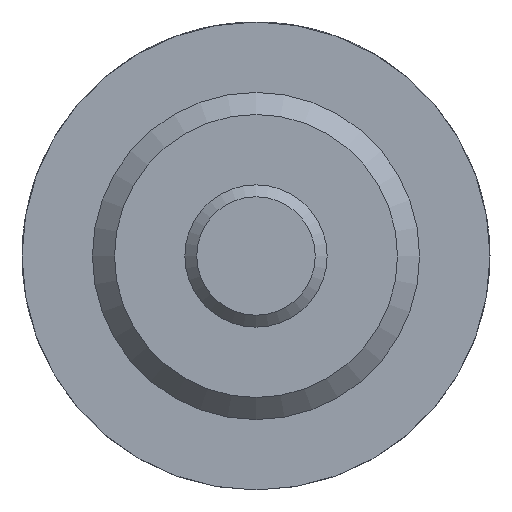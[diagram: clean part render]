
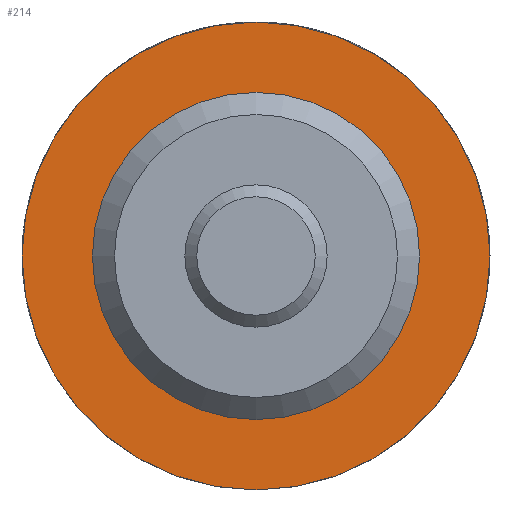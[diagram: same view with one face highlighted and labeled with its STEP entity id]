
A CAD part, left-side view. The second image highlights one B-rep face of the part: STEP entity #214.
In plain terms, the highlighted planar face has unit normal (-1, 0, 0).
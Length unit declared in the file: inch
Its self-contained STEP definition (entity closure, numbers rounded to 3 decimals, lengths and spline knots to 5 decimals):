
#214 = ADVANCED_FACE( '', ( #439, #440 ), #441, .F. );
#439 = FACE_OUTER_BOUND( '', #666, .T. );
#440 = FACE_BOUND( '', #667, .T. );
#441 = PLANE( '', #668 );
#666 = EDGE_LOOP( '', ( #1043 ) );
#667 = EDGE_LOOP( '', ( #1044 ) );
#668 = AXIS2_PLACEMENT_3D( '', #1045, #1046, #1047 );
#1043 = ORIENTED_EDGE( '', *, *, #1265, .F. );
#1044 = ORIENTED_EDGE( '', *, *, #1269, .T. );
#1045 = CARTESIAN_POINT( '', ( 0.375, 0.2185, 0. ) );
#1046 = DIRECTION( '', ( 1., 0., 0. ) );
#1047 = DIRECTION( '', ( 0., 0., -1. ) );
#1265 = EDGE_CURVE( '', #1484, #1484, #1485, .T. );
#1269 = EDGE_CURVE( '', #1490, #1490, #1491, .T. );
#1484 = VERTEX_POINT( '', #1920 );
#1485 = CIRCLE( '', #1921, 0.3125 );
#1490 = VERTEX_POINT( '', #1926 );
#1491 = CIRCLE( '', #1927, 0.2185 );
#1920 = CARTESIAN_POINT( '', ( 0.375, 0., -0.3125 ) );
#1921 = AXIS2_PLACEMENT_3D( '', #2121, #2122, #2123 );
#1926 = CARTESIAN_POINT( '', ( 0.375, 0., -0.2185 ) );
#1927 = AXIS2_PLACEMENT_3D( '', #2127, #2128, #2129 );
#2121 = CARTESIAN_POINT( '', ( 0.375, 0., 0. ) );
#2122 = DIRECTION( '', ( 1., 0., 0. ) );
#2123 = DIRECTION( '', ( 0., 0., -1. ) );
#2127 = CARTESIAN_POINT( '', ( 0.375, 0., 0. ) );
#2128 = DIRECTION( '', ( 1., 0., 0. ) );
#2129 = DIRECTION( '', ( 0., 0., -1. ) );
